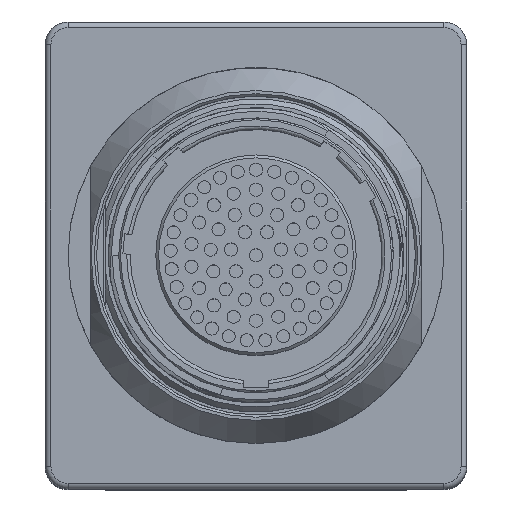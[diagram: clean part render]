
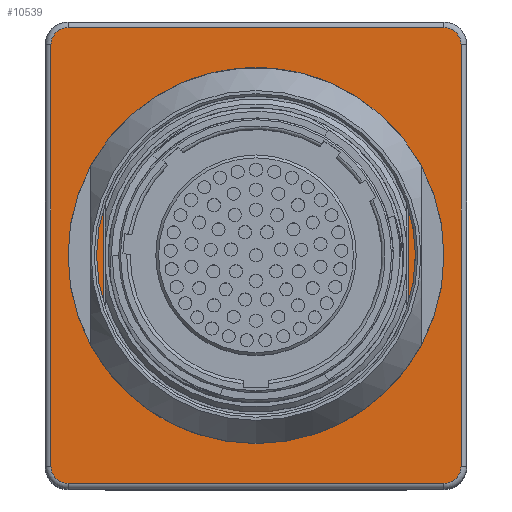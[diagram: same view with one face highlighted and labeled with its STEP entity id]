
A CAD part, top view. The second image highlights one B-rep face of the part: STEP entity #10539.
In plain terms, the highlighted planar face has unit normal (0, 0, 1).
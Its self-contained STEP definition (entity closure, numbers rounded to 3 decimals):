
#165=FACE_BOUND('',#2940,.T.);
#352=PLANE('',#11253);
#670=LINE('',#15951,#1329);
#672=LINE('',#15963,#1331);
#674=LINE('',#15975,#1333);
#676=LINE('',#15984,#1335);
#684=LINE('',#16018,#1343);
#685=LINE('',#16026,#1344);
#1329=VECTOR('',#12588,10.);
#1331=VECTOR('',#12602,10.);
#1333=VECTOR('',#12616,10.);
#1335=VECTOR('',#12628,10.);
#1343=VECTOR('',#12662,10.);
#1344=VECTOR('',#12669,10.);
#2273=FACE_OUTER_BOUND('',#2939,.T.);
#2939=EDGE_LOOP('',(#6970,#6971,#6972,#6973,#6974,#6975,#6976,#6977));
#2940=EDGE_LOOP('',(#6978,#6979,#6980,#6981,#6982,#6983,#6984,#6985));
#3777=CIRCLE('',#11221,1.5);
#3783=CIRCLE('',#11229,1.5);
#3787=CIRCLE('',#11235,1.5);
#3791=CIRCLE('',#11241,1.5);
#3798=CIRCLE('',#11254,14.25);
#3799=CIRCLE('',#11255,2.);
#3800=CIRCLE('',#11256,2.);
#3801=CIRCLE('',#11257,14.25);
#3802=CIRCLE('',#11258,2.);
#3803=CIRCLE('',#11259,2.);
#4480=VERTEX_POINT('',#15939);
#4481=VERTEX_POINT('',#15941);
#4483=VERTEX_POINT('',#15947);
#4485=VERTEX_POINT('',#15953);
#4487=VERTEX_POINT('',#15959);
#4489=VERTEX_POINT('',#15965);
#4491=VERTEX_POINT('',#15971);
#4493=VERTEX_POINT('',#15977);
#4504=VERTEX_POINT('',#16012);
#4505=VERTEX_POINT('',#16013);
#4506=VERTEX_POINT('',#16015);
#4507=VERTEX_POINT('',#16017);
#4508=VERTEX_POINT('',#16019);
#4509=VERTEX_POINT('',#16021);
#4510=VERTEX_POINT('',#16023);
#4511=VERTEX_POINT('',#16025);
#5463=EDGE_CURVE('',#4480,#4481,#3777,.T.);
#5468=EDGE_CURVE('',#4481,#4483,#670,.T.);
#5471=EDGE_CURVE('',#4483,#4485,#3783,.T.);
#5474=EDGE_CURVE('',#4485,#4487,#672,.T.);
#5477=EDGE_CURVE('',#4487,#4489,#3787,.T.);
#5480=EDGE_CURVE('',#4489,#4491,#674,.T.);
#5483=EDGE_CURVE('',#4491,#4493,#3791,.T.);
#5485=EDGE_CURVE('',#4493,#4480,#676,.T.);
#5499=EDGE_CURVE('',#4504,#4505,#3798,.T.);
#5500=EDGE_CURVE('',#4506,#4505,#3799,.T.);
#5501=EDGE_CURVE('',#4506,#4507,#684,.T.);
#5502=EDGE_CURVE('',#4508,#4507,#3800,.T.);
#5503=EDGE_CURVE('',#4508,#4509,#3801,.T.);
#5504=EDGE_CURVE('',#4510,#4509,#3802,.T.);
#5505=EDGE_CURVE('',#4510,#4511,#685,.T.);
#5506=EDGE_CURVE('',#4504,#4511,#3803,.T.);
#6970=ORIENTED_EDGE('',*,*,#5463,.F.);
#6971=ORIENTED_EDGE('',*,*,#5485,.F.);
#6972=ORIENTED_EDGE('',*,*,#5483,.F.);
#6973=ORIENTED_EDGE('',*,*,#5480,.F.);
#6974=ORIENTED_EDGE('',*,*,#5477,.F.);
#6975=ORIENTED_EDGE('',*,*,#5474,.F.);
#6976=ORIENTED_EDGE('',*,*,#5471,.F.);
#6977=ORIENTED_EDGE('',*,*,#5468,.F.);
#6978=ORIENTED_EDGE('',*,*,#5499,.T.);
#6979=ORIENTED_EDGE('',*,*,#5500,.F.);
#6980=ORIENTED_EDGE('',*,*,#5501,.T.);
#6981=ORIENTED_EDGE('',*,*,#5502,.F.);
#6982=ORIENTED_EDGE('',*,*,#5503,.T.);
#6983=ORIENTED_EDGE('',*,*,#5504,.F.);
#6984=ORIENTED_EDGE('',*,*,#5505,.T.);
#6985=ORIENTED_EDGE('',*,*,#5506,.F.);
#10539=ADVANCED_FACE('',(#2273,#165),#352,.F.);
#11221=AXIS2_PLACEMENT_3D('',#15942,#12577,#12578);
#11229=AXIS2_PLACEMENT_3D('',#15957,#12595,#12596);
#11235=AXIS2_PLACEMENT_3D('',#15969,#12609,#12610);
#11241=AXIS2_PLACEMENT_3D('',#15981,#12623,#12624);
#11253=AXIS2_PLACEMENT_3D('',#16011,#12656,#12657);
#11254=AXIS2_PLACEMENT_3D('',#16014,#12658,#12659);
#11255=AXIS2_PLACEMENT_3D('',#16016,#12660,#12661);
#11256=AXIS2_PLACEMENT_3D('',#16020,#12663,#12664);
#11257=AXIS2_PLACEMENT_3D('',#16022,#12665,#12666);
#11258=AXIS2_PLACEMENT_3D('',#16024,#12667,#12668);
#11259=AXIS2_PLACEMENT_3D('',#16027,#12670,#12671);
#12577=DIRECTION('center_axis',(0.,0.,
-1.));
#12578=DIRECTION('ref_axis',(0.707,-0.707,0.));
#12588=DIRECTION('',(-1.,0.,0.));
#12595=DIRECTION('center_axis',(0.,0.,
-1.));
#12596=DIRECTION('ref_axis',(-0.707,-0.707,0.));
#12602=DIRECTION('',(0.,1.,0.));
#12609=DIRECTION('center_axis',(0.,0.,
-1.));
#12610=DIRECTION('ref_axis',(-0.707,0.707,0.));
#12616=DIRECTION('',(1.,0.,0.));
#12623=DIRECTION('center_axis',(0.,0.,
-1.));
#12624=DIRECTION('ref_axis',(0.707,0.707,0.));
#12628=DIRECTION('',(0.,-1.,0.));
#12656=DIRECTION('center_axis',(0.,0.,
-1.));
#12657=DIRECTION('ref_axis',(0.,-1.,0.));
#12658=DIRECTION('center_axis',(0.,0.,
-1.));
#12659=DIRECTION('ref_axis',(0.94,0.34,0.));
#12660=DIRECTION('center_axis',(0.,0.,
1.));
#12661=DIRECTION('ref_axis',(-0.982,-0.186,0.));
#12662=DIRECTION('',(0.,1.,0.));
#12663=DIRECTION('center_axis',(0.,0.,
1.));
#12664=DIRECTION('ref_axis',(-0.982,0.186,0.));
#12665=DIRECTION('center_axis',(0.,0.,
-1.));
#12666=DIRECTION('ref_axis',(-0.94,-0.34,0.));
#12667=DIRECTION('center_axis',(0.,0.,
1.));
#12668=DIRECTION('ref_axis',(0.982,0.186,0.));
#12669=DIRECTION('',(0.,-1.,0.));
#12670=DIRECTION('center_axis',(0.,0.,
1.));
#12671=DIRECTION('ref_axis',(0.982,-0.186,0.));
#15939=CARTESIAN_POINT('',(25.467,-17.028,15.198));
#15941=CARTESIAN_POINT('',(23.967,-18.528,15.198));
#15942=CARTESIAN_POINT('Origin',(23.967,-17.028,15.198));
#15947=CARTESIAN_POINT('',(-9.033,-18.528,15.198));
#15951=CARTESIAN_POINT('',(16.717,-18.528,15.198));
#15953=CARTESIAN_POINT('',(-10.533,-17.028,15.198));
#15957=CARTESIAN_POINT('Origin',(-9.033,-17.028,15.198));
#15959=CARTESIAN_POINT('',(-10.533,19.972,15.198));
#15963=CARTESIAN_POINT('',(-10.533,-8.778,15.198));
#15965=CARTESIAN_POINT('',(-9.033,21.472,15.198));
#15969=CARTESIAN_POINT('Origin',(-9.033,19.972,15.198));
#15971=CARTESIAN_POINT('',(23.967,21.472,15.198));
#15975=CARTESIAN_POINT('',(-1.783,21.472,15.198));
#15977=CARTESIAN_POINT('',(25.467,19.972,15.198));
#15981=CARTESIAN_POINT('Origin',(23.967,19.972,15.198));
#15984=CARTESIAN_POINT('',(25.467,11.722,15.198));
#16011=CARTESIAN_POINT('Origin',(7.467,1.472,15.198));
#16012=CARTESIAN_POINT('',(20.729,-3.744,15.198));
#16013=CARTESIAN_POINT('',(-5.794,-3.744,15.198));
#16014=CARTESIAN_POINT('Origin',(7.467,1.472,15.198));
#16015=CARTESIAN_POINT('',(-5.933,-3.012,15.198));
#16016=CARTESIAN_POINT('Origin',(-3.933,-3.012,15.198));
#16017=CARTESIAN_POINT('',(-5.933,5.955,15.198));
#16018=CARTESIAN_POINT('',(-5.933,-0.952,15.198));
#16019=CARTESIAN_POINT('',(-5.794,6.687,15.198));
#16020=CARTESIAN_POINT('Origin',(-3.933,5.955,15.198));
#16021=CARTESIAN_POINT('',(20.729,6.687,15.198));
#16022=CARTESIAN_POINT('Origin',(7.467,1.472,15.198));
#16023=CARTESIAN_POINT('',(20.867,5.955,15.198));
#16024=CARTESIAN_POINT('Origin',(18.867,5.955,15.198));
#16025=CARTESIAN_POINT('',(20.867,-3.012,15.198));
#16026=CARTESIAN_POINT('',(20.867,3.896,15.198));
#16027=CARTESIAN_POINT('Origin',(18.867,-3.012,15.198));
